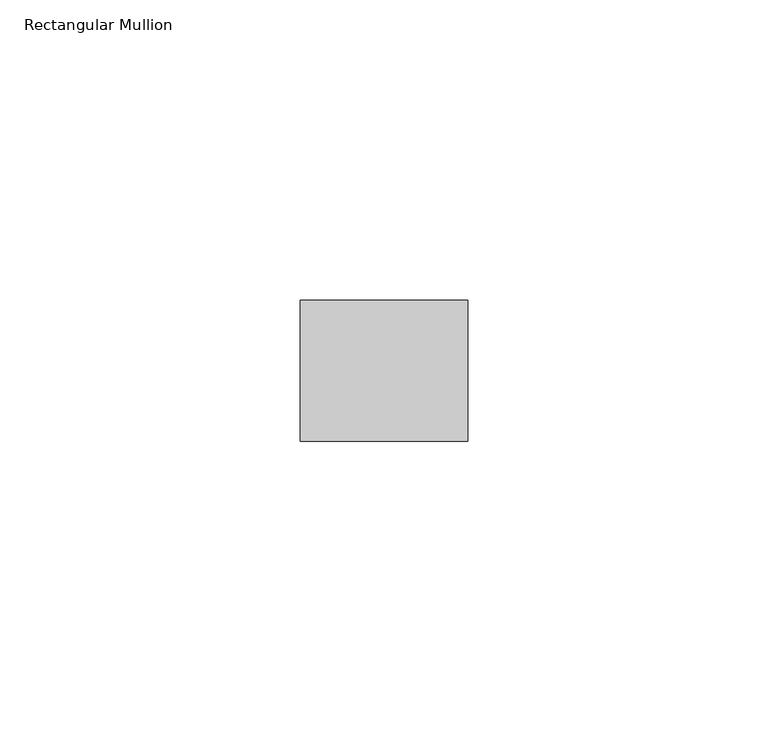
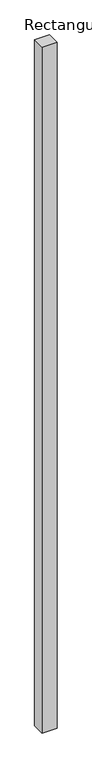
"""IFC4 building model written with IfcOpenShell, lengths in millimetres: member geometry, Rectangular Mullion : Lite Scale Glasing - Base Trim."""

from ifc_helpers import new_model, si_unit, frame, origin, place, context, project, spatial, polyline, outline, extrude, source, transform, mapped, element, save


def rectangular_mullion_0724d02b(model_context):
    return source(origin(), model_context, "Body", "SweptSolid", [
        extrude(outline(polyline([(0.0, -11.7474999), (-27.94, -11.7474999), (-27.94, 11.7474999), (0.0, 11.7474999), (0.0, -11.7474999)])), frame((0.0, 0.0, -1346.2), z_axis=(0.0, 0.0, 1.0), x_axis=(1.0, 0.0, 0.0)), (0.0, 0.0, 1.0), 1346.2),
    ])


if __name__ == "__main__":
    model = new_model("IFC4")
    model_context = context("Model", 3, world=origin())
    ifc_project = project(units=[si_unit("LENGTHUNIT", "METRE", prefix="MILLI")], contexts=[model_context])
    site = spatial("IfcSite", under=ifc_project)
    building = spatial("IfcBuilding", under=site)
    placement = place(None, origin())
    rectangular_mullion_shape = rectangular_mullion_0724d02b(model_context)
    element("IfcMember", 1, ObjectType="Rectangular Mullion : Lite Scale Glasing - Base Trim", at=placement, inside=building, context=model_context, shape_type="MappedRepresentation", body=[
        mapped(rectangular_mullion_shape, transform((0.0, 0.0, 0.0), x_axis=(1.0, 0.0, 0.0), y_axis=(0.0, 1.0, 0.0), z_axis=(0.0, 0.0, 1.0))),
    ])
    save(model, "model.ifc")
